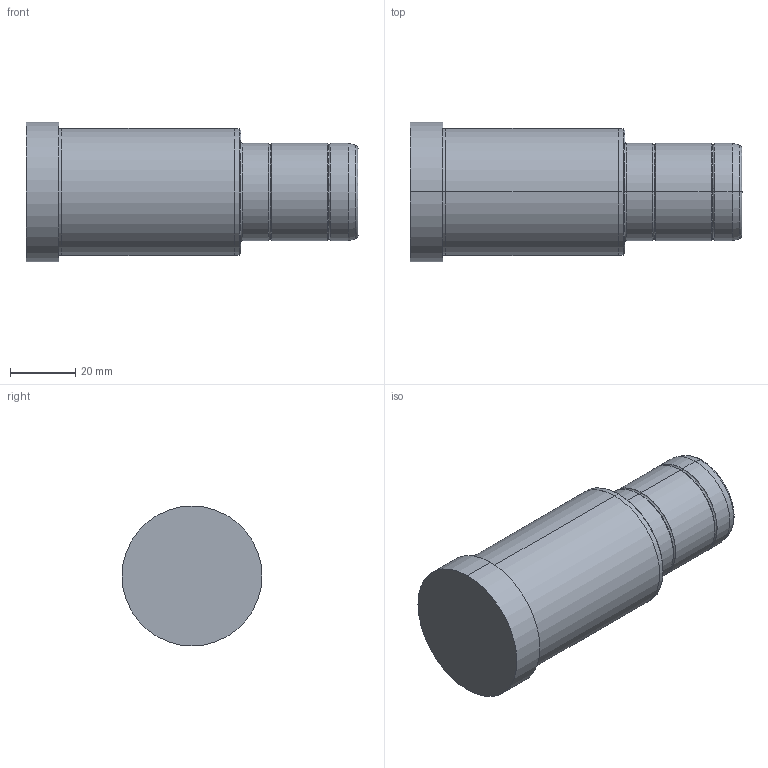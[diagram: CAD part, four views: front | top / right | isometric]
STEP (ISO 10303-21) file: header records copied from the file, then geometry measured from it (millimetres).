
FILE_DESCRIPTION( ( 'STEP AP203' ), '1' );
FILE_NAME( 'C:/Projects/D02 - 30x66x36.step', '2002-12-31T22:48:20', ( ' ' ), ( ' ' ), 'XStep 1.0', ' ', ' ' );
FILE_SCHEMA( ( 'CONFIG_CONTROL_DESIGN' ) );
Length unit declared in the file: metre
Products named in the file (1): 1
Bounding box: 102 x 43 x 43 mm (x, y, z)
Volume: 106726.3 mm3; surface area: 14468.2 mm2
Topology: 1 solids, 1 shells, 36 faces, 70 edges, 40 vertices
Faces by surface type: bspline 18, revolution 18
Entity records: 1127 total; most frequent: CARTESIAN_POINT 417, ORIENTED_EDGE 140, DIRECTION 118, EDGE_CURVE 70, AXIS2_PLACEMENT_3D 41, EDGE_LOOP 40, VERTEX_POINT 40, CIRCLE 40
